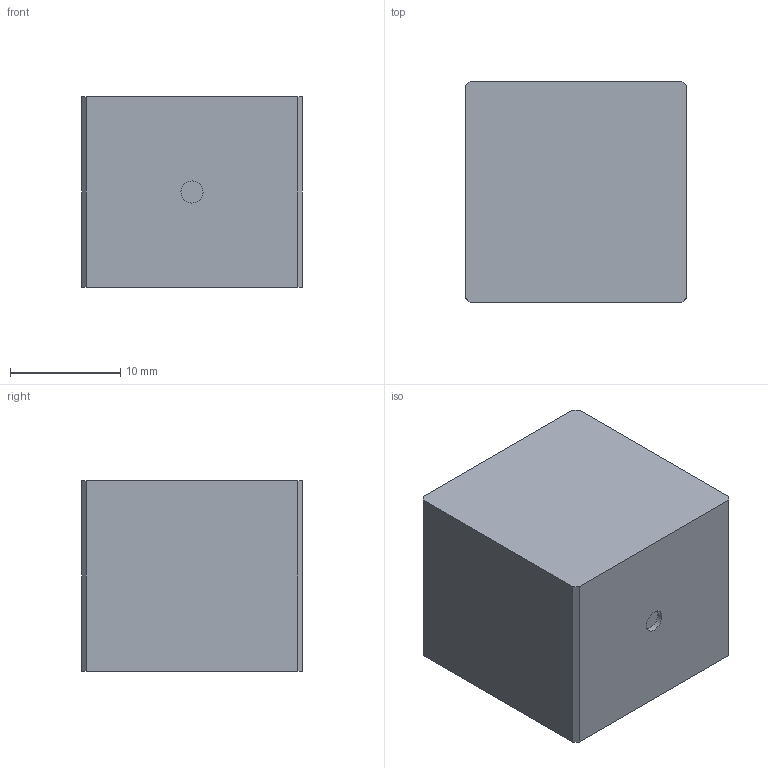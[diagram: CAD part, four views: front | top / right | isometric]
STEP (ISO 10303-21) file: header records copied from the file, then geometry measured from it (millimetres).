
FILE_DESCRIPTION(('Open CASCADE Model'),'2;1');
FILE_NAME('Open CASCADE Shape Model','2026-08-23T08:04:36',('Author'),( 'Open CASCADE'),'Open CASCADE STEP processor 7.9','Open CASCADE 7.9' ,'Unknown');
FILE_SCHEMA(('AUTOMOTIVE_DESIGN { 1 0 10303 214 1 1 1 1 }'));
Length unit declared in the file: millimetre
Products named in the file (2): =>[0:1:1:2]; COMPOUND
Assembly tree (1 placements, depth 2):
  =>[0:1:1:2]
    COMPOUND
Bounding box: 20 x 20 x 17.25 mm (x, y, z)
Volume: 6892.9 mm3; surface area: 2166.3 mm2
Topology: 1 solids, 1 shells, 12 faces, 27 edges, 18 vertices
Faces by surface type: plane 11, cylinder 1
Full cylindrical faces by diameter (mm): 2 x1
Entity records: 731 total; most frequent: CARTESIAN_POINT 119, DIRECTION 110, LINE 77, VECTOR 77, ORIENTED_EDGE 54, PCURVE 54, DEFINITIONAL_REPRESENTATION 54, EDGE_CURVE 27
